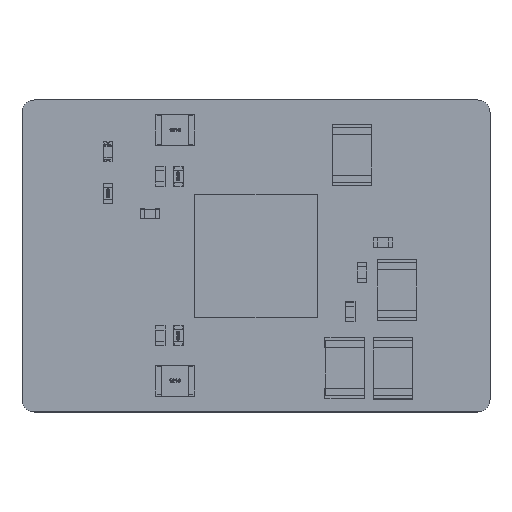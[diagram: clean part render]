
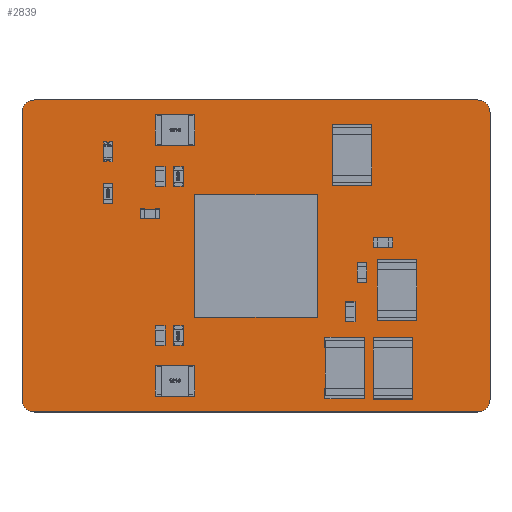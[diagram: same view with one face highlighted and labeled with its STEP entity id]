
A CAD part, top view. The second image highlights one B-rep face of the part: STEP entity #2839.
In plain terms, the highlighted planar face has unit normal (0, 0, 1).
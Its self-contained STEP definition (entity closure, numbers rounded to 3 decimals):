
#2574 = VERTEX_POINT('',#2575);
#2575 = CARTESIAN_POINT('',(-1.27,-10.43,0.));
#2581 = EDGE_CURVE('',#2574,#2582,#2584,.T.);
#2582 = VERTEX_POINT('',#2583);
#2583 = CARTESIAN_POINT('',(-1.27,12.97,0.));
#2584 = LINE('',#2585,#2586);
#2585 = CARTESIAN_POINT('',(-1.27,-10.43,0.));
#2586 = VECTOR('',#2587,1.);
#2587 = DIRECTION('',(0.,1.,0.));
#2612 = EDGE_CURVE('',#2582,#2613,#2615,.T.);
#2613 = VERTEX_POINT('',#2614);
#2614 = CARTESIAN_POINT('',(-0.27,13.97,0.));
#2615 = CIRCLE('',#2616,1.);
#2616 = AXIS2_PLACEMENT_3D('',#2617,#2618,#2619);
#2617 = CARTESIAN_POINT('',(-0.27,12.97,0.));
#2618 = DIRECTION('',(0.,0.,-1.));
#2619 = DIRECTION('',(-1.,0.,0.));
#2645 = EDGE_CURVE('',#2613,#2646,#2648,.T.);
#2646 = VERTEX_POINT('',#2647);
#2647 = CARTESIAN_POINT('',(35.83,13.97,0.));
#2648 = LINE('',#2649,#2650);
#2649 = CARTESIAN_POINT('',(-0.27,13.97,0.));
#2650 = VECTOR('',#2651,1.);
#2651 = DIRECTION('',(1.,0.,0.));
#2676 = EDGE_CURVE('',#2646,#2677,#2679,.T.);
#2677 = VERTEX_POINT('',#2678);
#2678 = CARTESIAN_POINT('',(36.83,12.97,0.));
#2679 = CIRCLE('',#2680,1.);
#2680 = AXIS2_PLACEMENT_3D('',#2681,#2682,#2683);
#2681 = CARTESIAN_POINT('',(35.83,12.97,0.));
#2682 = DIRECTION('',(0.,0.,-1.));
#2683 = DIRECTION('',(0.,1.,0.));
#2709 = EDGE_CURVE('',#2677,#2710,#2712,.T.);
#2710 = VERTEX_POINT('',#2711);
#2711 = CARTESIAN_POINT('',(36.83,-10.43,0.));
#2712 = LINE('',#2713,#2714);
#2713 = CARTESIAN_POINT('',(36.83,12.97,0.));
#2714 = VECTOR('',#2715,1.);
#2715 = DIRECTION('',(0.,-1.,0.));
#2740 = EDGE_CURVE('',#2710,#2741,#2743,.T.);
#2741 = VERTEX_POINT('',#2742);
#2742 = CARTESIAN_POINT('',(35.83,-11.43,0.));
#2743 = CIRCLE('',#2744,1.);
#2744 = AXIS2_PLACEMENT_3D('',#2745,#2746,#2747);
#2745 = CARTESIAN_POINT('',(35.83,-10.43,0.));
#2746 = DIRECTION('',(0.,0.,-1.));
#2747 = DIRECTION('',(1.,0.,0.));
#2773 = EDGE_CURVE('',#2741,#2774,#2776,.T.);
#2774 = VERTEX_POINT('',#2775);
#2775 = CARTESIAN_POINT('',(-0.27,-11.43,0.));
#2776 = LINE('',#2777,#2778);
#2777 = CARTESIAN_POINT('',(35.83,-11.43,0.));
#2778 = VECTOR('',#2779,1.);
#2779 = DIRECTION('',(-1.,0.,0.));
#2804 = EDGE_CURVE('',#2774,#2574,#2805,.T.);
#2805 = CIRCLE('',#2806,1.);
#2806 = AXIS2_PLACEMENT_3D('',#2807,#2808,#2809);
#2807 = CARTESIAN_POINT('',(-0.27,-10.43,0.));
#2808 = DIRECTION('',(0.,0.,-1.));
#2809 = DIRECTION('',(0.,-1.,0.));
#2839 = ADVANCED_FACE('',(#2840),#2850,.T.);
#2840 = FACE_BOUND('',#2841,.F.);
#2841 = EDGE_LOOP('',(#2842,#2843,#2844,#2845,#2846,#2847,#2848,#2849));
#2842 = ORIENTED_EDGE('',*,*,#2581,.T.);
#2843 = ORIENTED_EDGE('',*,*,#2612,.T.);
#2844 = ORIENTED_EDGE('',*,*,#2645,.T.);
#2845 = ORIENTED_EDGE('',*,*,#2676,.T.);
#2846 = ORIENTED_EDGE('',*,*,#2709,.T.);
#2847 = ORIENTED_EDGE('',*,*,#2740,.T.);
#2848 = ORIENTED_EDGE('',*,*,#2773,.T.);
#2849 = ORIENTED_EDGE('',*,*,#2804,.T.);
#2850 = PLANE('',#2851);
#2851 = AXIS2_PLACEMENT_3D('',#2852,#2853,#2854);
#2852 = CARTESIAN_POINT('',(-1.27,-10.43,0.));
#2853 = DIRECTION('',(0.,0.,1.));
#2854 = DIRECTION('',(1.,0.,0.));
